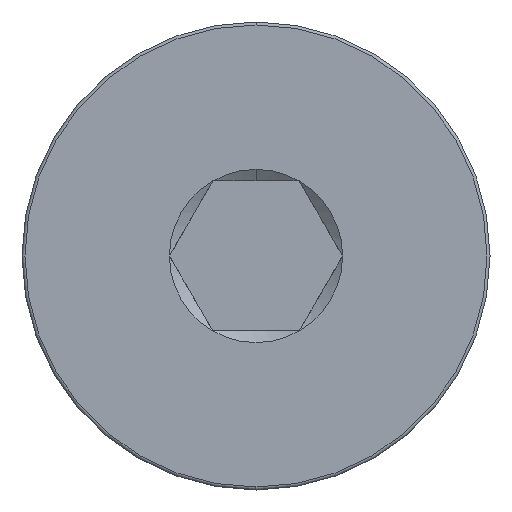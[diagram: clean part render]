
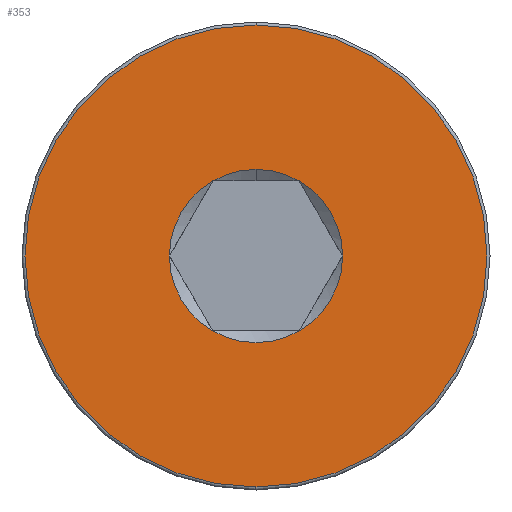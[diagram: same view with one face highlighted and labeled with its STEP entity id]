
A CAD part, left-side view. The second image highlights one B-rep face of the part: STEP entity #353.
In plain terms, the highlighted planar face has unit normal (-1, 0, 0).
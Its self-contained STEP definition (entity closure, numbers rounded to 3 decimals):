
#12 = CARTESIAN_POINT ( 'NONE',  ( 0., 0., 0. ) ) ;
#28 = VERTEX_POINT ( 'NONE', #482 ) ;
#45 = EDGE_CURVE ( 'NONE', #225, #133, #498, .T. ) ;
#53 = AXIS2_PLACEMENT_3D ( 'NONE', #97, #709, #584 ) ;
#69 = CARTESIAN_POINT ( 'NONE',  ( 0., 1.443, 0. ) ) ;
#72 = ORIENTED_EDGE ( 'NONE', *, *, #104, .T. ) ;
#76 = VERTEX_POINT ( 'NONE', #441 ) ;
#97 = CARTESIAN_POINT ( 'NONE',  ( 0., 0., 0. ) ) ;
#104 = EDGE_CURVE ( 'NONE', #222, #225, #627, .T. ) ;
#122 = CIRCLE ( 'NONE', #661, 1.443 ) ;
#133 = VERTEX_POINT ( 'NONE', #444 ) ;
#136 = DIRECTION ( 'NONE',  ( 1., 0., 0. ) ) ;
#160 = DIRECTION ( 'NONE',  ( 1., 0., 0. ) ) ;
#163 = AXIS2_PLACEMENT_3D ( 'NONE', #618, #687, #691 ) ;
#166 = DIRECTION ( 'NONE',  ( -1., 0., 0. ) ) ;
#167 = CIRCLE ( 'NONE', #629, 1.443 ) ;
#170 = DIRECTION ( 'NONE',  ( 0., 0., 1. ) ) ;
#187 = EDGE_CURVE ( 'NONE', #76, #525, #755, .T. ) ;
#190 = CARTESIAN_POINT ( 'NONE',  ( 0., 0., 3.85 ) ) ;
#193 = ORIENTED_EDGE ( 'NONE', *, *, #714, .T. ) ;
#199 = CARTESIAN_POINT ( 'NONE',  ( 0., 0., 0. ) ) ;
#212 = CARTESIAN_POINT ( 'NONE',  ( 0., -1.443, 0. ) ) ;
#222 = VERTEX_POINT ( 'NONE', #212 ) ;
#225 = VERTEX_POINT ( 'NONE', #524 ) ;
#228 = EDGE_LOOP ( 'NONE', ( #406, #337, #193, #322, #72, #711, #464 ) ) ;
#245 = DIRECTION ( 'NONE',  ( 1., 0., 0. ) ) ;
#252 = ORIENTED_EDGE ( 'NONE', *, *, #398, .T. ) ;
#254 = DIRECTION ( 'NONE',  ( 1., 0., 0. ) ) ;
#259 = EDGE_CURVE ( 'NONE', #513, #28, #122, .T. ) ;
#269 = AXIS2_PLACEMENT_3D ( 'NONE', #199, #254, #682 ) ;
#295 = PLANE ( 'NONE',  #535 ) ;
#304 = CARTESIAN_POINT ( 'NONE',  ( 0., 0., 0. ) ) ;
#322 = ORIENTED_EDGE ( 'NONE', *, *, #515, .T. ) ;
#337 = ORIENTED_EDGE ( 'NONE', *, *, #259, .T. ) ;
#342 = DIRECTION ( 'NONE',  ( 1., 0., 0. ) ) ;
#353 = ADVANCED_FACE ( 'NONE', ( #531, #726 ), #295, .T. ) ;
#355 = DIRECTION ( 'NONE',  ( -1., 0., 0. ) ) ;
#360 = AXIS2_PLACEMENT_3D ( 'NONE', #788, #166, #170 ) ;
#363 = CARTESIAN_POINT ( 'NONE',  ( 0., 0., 0. ) ) ;
#398 = EDGE_CURVE ( 'NONE', #525, #76, #675, .T. ) ;
#406 = ORIENTED_EDGE ( 'NONE', *, *, #653, .T. ) ;
#410 = CIRCLE ( 'NONE', #269, 1.443 ) ;
#430 = EDGE_CURVE ( 'NONE', #133, #566, #783, .T. ) ;
#441 = CARTESIAN_POINT ( 'NONE',  ( 0., 0., -3.85 ) ) ;
#444 = CARTESIAN_POINT ( 'NONE',  ( 0., 0.722, -1.25 ) ) ;
#462 = CARTESIAN_POINT ( 'NONE',  ( 0., 0., 0. ) ) ;
#464 = ORIENTED_EDGE ( 'NONE', *, *, #430, .T. ) ;
#476 = VERTEX_POINT ( 'NONE', #495 ) ;
#481 = DIRECTION ( 'NONE',  ( 1., 0., 0. ) ) ;
#482 = CARTESIAN_POINT ( 'NONE',  ( 0., 0., 1.443 ) ) ;
#495 = CARTESIAN_POINT ( 'NONE',  ( 0., -0.722, 1.25 ) ) ;
#498 = CIRCLE ( 'NONE', #549, 1.443 ) ;
#501 = DIRECTION ( 'NONE',  ( 0., 0., -1. ) ) ;
#513 = VERTEX_POINT ( 'NONE', #568 ) ;
#515 = EDGE_CURVE ( 'NONE', #476, #222, #410, .T. ) ;
#524 = CARTESIAN_POINT ( 'NONE',  ( 0., -0.722, -1.25 ) ) ;
#525 = VERTEX_POINT ( 'NONE', #190 ) ;
#526 = CARTESIAN_POINT ( 'NONE',  ( 0., 0., 0. ) ) ;
#531 = FACE_OUTER_BOUND ( 'NONE', #644, .T. ) ;
#534 = DIRECTION ( 'NONE',  ( 0., 0., 1. ) ) ;
#535 = AXIS2_PLACEMENT_3D ( 'NONE', #539, #355, #534 ) ;
#538 = CIRCLE ( 'NONE', #53, 1.443 ) ;
#539 = CARTESIAN_POINT ( 'NONE',  ( 0., 0., 0. ) ) ;
#549 = AXIS2_PLACEMENT_3D ( 'NONE', #363, #245, #736 ) ;
#566 = VERTEX_POINT ( 'NONE', #69 ) ;
#568 = CARTESIAN_POINT ( 'NONE',  ( 0., 0.722, 1.25 ) ) ;
#584 = DIRECTION ( 'NONE',  ( 0., 0., -1. ) ) ;
#618 = CARTESIAN_POINT ( 'NONE',  ( 0., 0., 0. ) ) ;
#627 = CIRCLE ( 'NONE', #740, 1.443 ) ;
#629 = AXIS2_PLACEMENT_3D ( 'NONE', #526, #342, #761 ) ;
#644 = EDGE_LOOP ( 'NONE', ( #252, #763 ) ) ;
#653 = EDGE_CURVE ( 'NONE', #566, #513, #538, .T. ) ;
#661 = AXIS2_PLACEMENT_3D ( 'NONE', #462, #160, #702 ) ;
#675 = CIRCLE ( 'NONE', #360, 3.85 ) ;
#682 = DIRECTION ( 'NONE',  ( 0., 0., -1. ) ) ;
#687 = DIRECTION ( 'NONE',  ( -1., 0., 0. ) ) ;
#691 = DIRECTION ( 'NONE',  ( 0., 0., 1. ) ) ;
#702 = DIRECTION ( 'NONE',  ( 0., 0., -1. ) ) ;
#709 = DIRECTION ( 'NONE',  ( 1., 0., 0. ) ) ;
#711 = ORIENTED_EDGE ( 'NONE', *, *, #45, .T. ) ;
#714 = EDGE_CURVE ( 'NONE', #28, #476, #167, .T. ) ;
#723 = DIRECTION ( 'NONE',  ( 0., 0., -1. ) ) ;
#726 = FACE_BOUND ( 'NONE', #228, .T. ) ;
#736 = DIRECTION ( 'NONE',  ( 0., 0., -1. ) ) ;
#740 = AXIS2_PLACEMENT_3D ( 'NONE', #12, #136, #501 ) ;
#742 = AXIS2_PLACEMENT_3D ( 'NONE', #304, #481, #723 ) ;
#755 = CIRCLE ( 'NONE', #163, 3.85 ) ;
#761 = DIRECTION ( 'NONE',  ( 0., 0., -1. ) ) ;
#763 = ORIENTED_EDGE ( 'NONE', *, *, #187, .T. ) ;
#783 = CIRCLE ( 'NONE', #742, 1.443 ) ;
#788 = CARTESIAN_POINT ( 'NONE',  ( 0., 0., 0. ) ) ;
